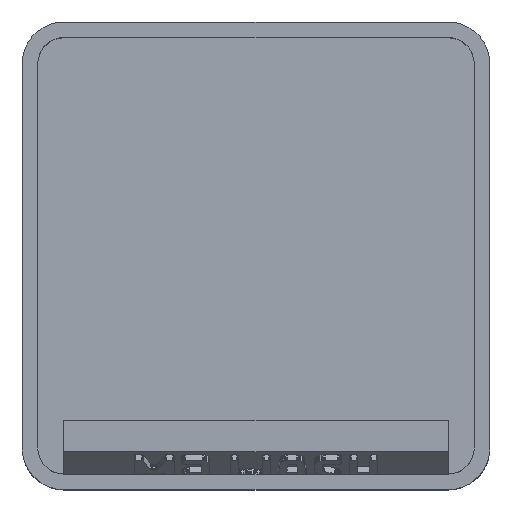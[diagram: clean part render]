
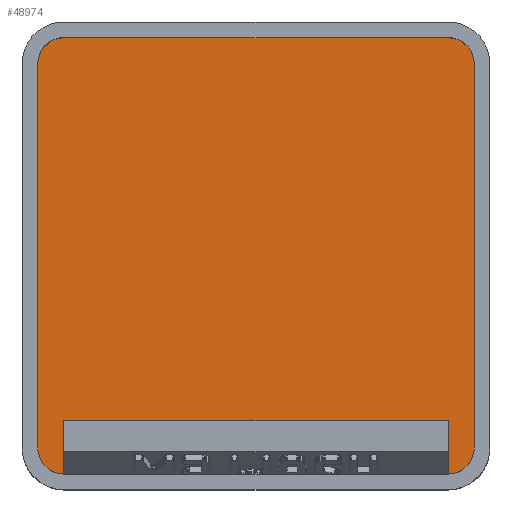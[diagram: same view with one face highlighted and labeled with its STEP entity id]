
A CAD part, top view. The second image highlights one B-rep face of the part: STEP entity #48974.
In plain terms, the highlighted planar face has unit normal (0, 0, 1).
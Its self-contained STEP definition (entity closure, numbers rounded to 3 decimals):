
#912 = PLANE('',#913);
#913 = AXIS2_PLACEMENT_3D('',#914,#915,#916);
#914 = CARTESIAN_POINT('',(-19.6,0.,21.));
#915 = DIRECTION('',(-1.,0.,0.));
#916 = DIRECTION('',(-0.,-1.,-0.));
#940 = CYLINDRICAL_SURFACE('',#941,2.35);
#941 = AXIS2_PLACEMENT_3D('',#942,#943,#944);
#942 = CARTESIAN_POINT('',(-17.25,17.25,5.95));
#943 = DIRECTION('',(-0.,-0.,1.));
#944 = DIRECTION('',(-1.,0.,0.));
#967 = PLANE('',#968);
#968 = AXIS2_PLACEMENT_3D('',#969,#970,#971);
#969 = CARTESIAN_POINT('',(0.,19.6,21.));
#970 = DIRECTION('',(0.,1.,0.));
#971 = DIRECTION('',(-1.,0.,0.));
#995 = CYLINDRICAL_SURFACE('',#996,2.35);
#996 = AXIS2_PLACEMENT_3D('',#997,#998,#999);
#997 = CARTESIAN_POINT('',(17.25,17.25,5.95));
#998 = DIRECTION('',(-0.,-0.,1.));
#999 = DIRECTION('',(-1.,0.,0.));
#1022 = PLANE('',#1023);
#1023 = AXIS2_PLACEMENT_3D('',#1024,#1025,#1026);
#1024 = CARTESIAN_POINT('',(19.6,0.,21.));
#1025 = DIRECTION('',(1.,0.,0.));
#1026 = DIRECTION('',(-0.,1.,0.));
#1050 = CYLINDRICAL_SURFACE('',#1051,2.35);
#1051 = AXIS2_PLACEMENT_3D('',#1052,#1053,#1054);
#1052 = CARTESIAN_POINT('',(17.25,-17.25,5.95));
#1053 = DIRECTION('',(-0.,-0.,1.));
#1054 = DIRECTION('',(-1.,0.,0.));
#1103 = CYLINDRICAL_SURFACE('',#1104,2.35);
#1104 = AXIS2_PLACEMENT_3D('',#1105,#1106,#1107);
#1105 = CARTESIAN_POINT('',(-17.25,-17.25,5.95));
#1106 = DIRECTION('',(-0.,-0.,1.));
#1107 = DIRECTION('',(-1.,0.,0.));
#17945 = EDGE_CURVE('',#17946,#17948,#17950,.T.);
#17946 = VERTEX_POINT('',#17947);
#17947 = CARTESIAN_POINT('',(-19.6,-17.25,5.95));
#17948 = VERTEX_POINT('',#17949);
#17949 = CARTESIAN_POINT('',(-19.6,17.25,5.95));
#17950 = SURFACE_CURVE('',#17951,(#17955,#17962),.PCURVE_S1.);
#17951 = LINE('',#17952,#17953);
#17952 = CARTESIAN_POINT('',(-19.6,0.,5.95));
#17953 = VECTOR('',#17954,1.);
#17954 = DIRECTION('',(0.,1.,0.));
#17955 = PCURVE('',#912,#17956);
#17956 = DEFINITIONAL_REPRESENTATION('',(#17957),#17961);
#17957 = LINE('',#17958,#17959);
#17958 = CARTESIAN_POINT('',(0.,-15.05));
#17959 = VECTOR('',#17960,1.);
#17960 = DIRECTION('',(-1.,0.));
#17961 = ( GEOMETRIC_REPRESENTATION_CONTEXT(2) 
PARAMETRIC_REPRESENTATION_CONTEXT() REPRESENTATION_CONTEXT('2D SPACE',''
  ) );
#17962 = PCURVE('',#17963,#17968);
#17963 = PLANE('',#17964);
#17964 = AXIS2_PLACEMENT_3D('',#17965,#17966,#17967);
#17965 = CARTESIAN_POINT('',(-17.25,-17.25,5.95));
#17966 = DIRECTION('',(0.,0.,-1.));
#17967 = DIRECTION('',(-1.,0.,0.));
#17968 = DEFINITIONAL_REPRESENTATION('',(#17969),#17973);
#17969 = LINE('',#17970,#17971);
#17970 = CARTESIAN_POINT('',(2.35,17.25));
#17971 = VECTOR('',#17972,1.);
#17972 = DIRECTION('',(0.,1.));
#17973 = ( GEOMETRIC_REPRESENTATION_CONTEXT(2) 
PARAMETRIC_REPRESENTATION_CONTEXT() REPRESENTATION_CONTEXT('2D SPACE',''
  ) );
#18020 = EDGE_CURVE('',#18021,#17946,#18023,.T.);
#18021 = VERTEX_POINT('',#18022);
#18022 = CARTESIAN_POINT('',(-17.25,-19.6,5.95));
#18023 = SURFACE_CURVE('',#18024,(#18029,#18036),.PCURVE_S1.);
#18024 = CIRCLE('',#18025,2.35);
#18025 = AXIS2_PLACEMENT_3D('',#18026,#18027,#18028);
#18026 = CARTESIAN_POINT('',(-17.25,-17.25,5.95));
#18027 = DIRECTION('',(0.,0.,-1.));
#18028 = DIRECTION('',(-1.,0.,0.));
#18029 = PCURVE('',#1103,#18030);
#18030 = DEFINITIONAL_REPRESENTATION('',(#18031),#18035);
#18031 = LINE('',#18032,#18033);
#18032 = CARTESIAN_POINT('',(6.283,0.));
#18033 = VECTOR('',#18034,1.);
#18034 = DIRECTION('',(-1.,0.));
#18035 = ( GEOMETRIC_REPRESENTATION_CONTEXT(2) 
PARAMETRIC_REPRESENTATION_CONTEXT() REPRESENTATION_CONTEXT('2D SPACE',''
  ) );
#18036 = PCURVE('',#17963,#18037);
#18037 = DEFINITIONAL_REPRESENTATION('',(#18038),#18042);
#18038 = CIRCLE('',#18039,2.35);
#18039 = AXIS2_PLACEMENT_2D('',#18040,#18041);
#18040 = CARTESIAN_POINT('',(0.,0.));
#18041 = DIRECTION('',(1.,0.));
#18042 = ( GEOMETRIC_REPRESENTATION_CONTEXT(2) 
PARAMETRIC_REPRESENTATION_CONTEXT() REPRESENTATION_CONTEXT('2D SPACE',''
  ) );
#18060 = PLANE('',#18061);
#18061 = AXIS2_PLACEMENT_3D('',#18062,#18063,#18064);
#18062 = CARTESIAN_POINT('',(0.,-19.6,21.));
#18063 = DIRECTION('',(0.,-1.,0.));
#18064 = DIRECTION('',(1.,0.,0.));
#18147 = EDGE_CURVE('',#18148,#18150,#18152,.T.);
#18148 = VERTEX_POINT('',#18149);
#18149 = CARTESIAN_POINT('',(19.6,-17.25,5.95));
#18150 = VERTEX_POINT('',#18151);
#18151 = CARTESIAN_POINT('',(17.25,-19.6,5.95));
#18152 = SURFACE_CURVE('',#18153,(#18158,#18165),.PCURVE_S1.);
#18153 = CIRCLE('',#18154,2.35);
#18154 = AXIS2_PLACEMENT_3D('',#18155,#18156,#18157);
#18155 = CARTESIAN_POINT('',(17.25,-17.25,5.95));
#18156 = DIRECTION('',(0.,0.,-1.));
#18157 = DIRECTION('',(-1.,0.,0.));
#18158 = PCURVE('',#1050,#18159);
#18159 = DEFINITIONAL_REPRESENTATION('',(#18160),#18164);
#18160 = LINE('',#18161,#18162);
#18161 = CARTESIAN_POINT('',(6.283,0.));
#18162 = VECTOR('',#18163,1.);
#18163 = DIRECTION('',(-1.,0.));
#18164 = ( GEOMETRIC_REPRESENTATION_CONTEXT(2) 
PARAMETRIC_REPRESENTATION_CONTEXT() REPRESENTATION_CONTEXT('2D SPACE',''
  ) );
#18165 = PCURVE('',#17963,#18166);
#18166 = DEFINITIONAL_REPRESENTATION('',(#18167),#18171);
#18167 = CIRCLE('',#18168,2.35);
#18168 = AXIS2_PLACEMENT_2D('',#18169,#18170);
#18169 = CARTESIAN_POINT('',(-34.5,0.));
#18170 = DIRECTION('',(1.,0.));
#18171 = ( GEOMETRIC_REPRESENTATION_CONTEXT(2) 
PARAMETRIC_REPRESENTATION_CONTEXT() REPRESENTATION_CONTEXT('2D SPACE',''
  ) );
#18245 = EDGE_CURVE('',#18148,#18246,#18248,.T.);
#18246 = VERTEX_POINT('',#18247);
#18247 = CARTESIAN_POINT('',(19.6,17.25,5.95));
#18248 = SURFACE_CURVE('',#18249,(#18253,#18260),.PCURVE_S1.);
#18249 = LINE('',#18250,#18251);
#18250 = CARTESIAN_POINT('',(19.6,0.,5.95));
#18251 = VECTOR('',#18252,1.);
#18252 = DIRECTION('',(0.,1.,0.));
#18253 = PCURVE('',#1022,#18254);
#18254 = DEFINITIONAL_REPRESENTATION('',(#18255),#18259);
#18255 = LINE('',#18256,#18257);
#18256 = CARTESIAN_POINT('',(0.,-15.05));
#18257 = VECTOR('',#18258,1.);
#18258 = DIRECTION('',(1.,0.));
#18259 = ( GEOMETRIC_REPRESENTATION_CONTEXT(2) 
PARAMETRIC_REPRESENTATION_CONTEXT() REPRESENTATION_CONTEXT('2D SPACE',''
  ) );
#18260 = PCURVE('',#17963,#18261);
#18261 = DEFINITIONAL_REPRESENTATION('',(#18262),#18266);
#18262 = LINE('',#18263,#18264);
#18263 = CARTESIAN_POINT('',(-36.85,17.25));
#18264 = VECTOR('',#18265,1.);
#18265 = DIRECTION('',(0.,1.));
#18266 = ( GEOMETRIC_REPRESENTATION_CONTEXT(2) 
PARAMETRIC_REPRESENTATION_CONTEXT() REPRESENTATION_CONTEXT('2D SPACE',''
  ) );
#18293 = EDGE_CURVE('',#18294,#18246,#18296,.T.);
#18294 = VERTEX_POINT('',#18295);
#18295 = CARTESIAN_POINT('',(17.25,19.6,5.95));
#18296 = SURFACE_CURVE('',#18297,(#18302,#18309),.PCURVE_S1.);
#18297 = CIRCLE('',#18298,2.35);
#18298 = AXIS2_PLACEMENT_3D('',#18299,#18300,#18301);
#18299 = CARTESIAN_POINT('',(17.25,17.25,5.95));
#18300 = DIRECTION('',(0.,0.,-1.));
#18301 = DIRECTION('',(-1.,0.,0.));
#18302 = PCURVE('',#995,#18303);
#18303 = DEFINITIONAL_REPRESENTATION('',(#18304),#18308);
#18304 = LINE('',#18305,#18306);
#18305 = CARTESIAN_POINT('',(6.283,0.));
#18306 = VECTOR('',#18307,1.);
#18307 = DIRECTION('',(-1.,0.));
#18308 = ( GEOMETRIC_REPRESENTATION_CONTEXT(2) 
PARAMETRIC_REPRESENTATION_CONTEXT() REPRESENTATION_CONTEXT('2D SPACE',''
  ) );
#18309 = PCURVE('',#17963,#18310);
#18310 = DEFINITIONAL_REPRESENTATION('',(#18311),#18315);
#18311 = CIRCLE('',#18312,2.35);
#18312 = AXIS2_PLACEMENT_2D('',#18313,#18314);
#18313 = CARTESIAN_POINT('',(-34.5,34.5));
#18314 = DIRECTION('',(1.,0.));
#18315 = ( GEOMETRIC_REPRESENTATION_CONTEXT(2) 
PARAMETRIC_REPRESENTATION_CONTEXT() REPRESENTATION_CONTEXT('2D SPACE',''
  ) );
#18343 = EDGE_CURVE('',#18344,#18294,#18346,.T.);
#18344 = VERTEX_POINT('',#18345);
#18345 = CARTESIAN_POINT('',(-17.25,19.6,5.95));
#18346 = SURFACE_CURVE('',#18347,(#18351,#18358),.PCURVE_S1.);
#18347 = LINE('',#18348,#18349);
#18348 = CARTESIAN_POINT('',(0.,19.6,5.95));
#18349 = VECTOR('',#18350,1.);
#18350 = DIRECTION('',(1.,0.,0.));
#18351 = PCURVE('',#967,#18352);
#18352 = DEFINITIONAL_REPRESENTATION('',(#18353),#18357);
#18353 = LINE('',#18354,#18355);
#18354 = CARTESIAN_POINT('',(0.,-15.05));
#18355 = VECTOR('',#18356,1.);
#18356 = DIRECTION('',(-1.,0.));
#18357 = ( GEOMETRIC_REPRESENTATION_CONTEXT(2) 
PARAMETRIC_REPRESENTATION_CONTEXT() REPRESENTATION_CONTEXT('2D SPACE',''
  ) );
#18358 = PCURVE('',#17963,#18359);
#18359 = DEFINITIONAL_REPRESENTATION('',(#18360),#18364);
#18360 = LINE('',#18361,#18362);
#18361 = CARTESIAN_POINT('',(-17.25,36.85));
#18362 = VECTOR('',#18363,1.);
#18363 = DIRECTION('',(-1.,0.));
#18364 = ( GEOMETRIC_REPRESENTATION_CONTEXT(2) 
PARAMETRIC_REPRESENTATION_CONTEXT() REPRESENTATION_CONTEXT('2D SPACE',''
  ) );
#18392 = EDGE_CURVE('',#17948,#18344,#18393,.T.);
#18393 = SURFACE_CURVE('',#18394,(#18399,#18406),.PCURVE_S1.);
#18394 = CIRCLE('',#18395,2.35);
#18395 = AXIS2_PLACEMENT_3D('',#18396,#18397,#18398);
#18396 = CARTESIAN_POINT('',(-17.25,17.25,5.95));
#18397 = DIRECTION('',(0.,0.,-1.));
#18398 = DIRECTION('',(-1.,0.,0.));
#18399 = PCURVE('',#940,#18400);
#18400 = DEFINITIONAL_REPRESENTATION('',(#18401),#18405);
#18401 = LINE('',#18402,#18403);
#18402 = CARTESIAN_POINT('',(6.283,0.));
#18403 = VECTOR('',#18404,1.);
#18404 = DIRECTION('',(-1.,0.));
#18405 = ( GEOMETRIC_REPRESENTATION_CONTEXT(2) 
PARAMETRIC_REPRESENTATION_CONTEXT() REPRESENTATION_CONTEXT('2D SPACE',''
  ) );
#18406 = PCURVE('',#17963,#18407);
#18407 = DEFINITIONAL_REPRESENTATION('',(#18408),#18412);
#18408 = CIRCLE('',#18409,2.35);
#18409 = AXIS2_PLACEMENT_2D('',#18410,#18411);
#18410 = CARTESIAN_POINT('',(0.,34.5));
#18411 = DIRECTION('',(1.,0.));
#18412 = ( GEOMETRIC_REPRESENTATION_CONTEXT(2) 
PARAMETRIC_REPRESENTATION_CONTEXT() REPRESENTATION_CONTEXT('2D SPACE',''
  ) );
#48974 = ADVANCED_FACE('',(#48975),#17963,.F.);
#48975 = FACE_BOUND('',#48976,.T.);
#48976 = EDGE_LOOP('',(#48977,#48978,#48979,#49000,#49001,#49002,#49003,
    #49004));
#48977 = ORIENTED_EDGE('',*,*,#17945,.F.);
#48978 = ORIENTED_EDGE('',*,*,#18020,.F.);
#48979 = ORIENTED_EDGE('',*,*,#48980,.T.);
#48980 = EDGE_CURVE('',#18021,#18150,#48981,.T.);
#48981 = SURFACE_CURVE('',#48982,(#48986,#48993),.PCURVE_S1.);
#48982 = LINE('',#48983,#48984);
#48983 = CARTESIAN_POINT('',(0.,-19.6,5.95));
#48984 = VECTOR('',#48985,1.);
#48985 = DIRECTION('',(1.,0.,0.));
#48986 = PCURVE('',#17963,#48987);
#48987 = DEFINITIONAL_REPRESENTATION('',(#48988),#48992);
#48988 = LINE('',#48989,#48990);
#48989 = CARTESIAN_POINT('',(-17.25,-2.35));
#48990 = VECTOR('',#48991,1.);
#48991 = DIRECTION('',(-1.,0.));
#48992 = ( GEOMETRIC_REPRESENTATION_CONTEXT(2) 
PARAMETRIC_REPRESENTATION_CONTEXT() REPRESENTATION_CONTEXT('2D SPACE',''
  ) );
#48993 = PCURVE('',#18060,#48994);
#48994 = DEFINITIONAL_REPRESENTATION('',(#48995),#48999);
#48995 = LINE('',#48996,#48997);
#48996 = CARTESIAN_POINT('',(0.,-15.05));
#48997 = VECTOR('',#48998,1.);
#48998 = DIRECTION('',(1.,0.));
#48999 = ( GEOMETRIC_REPRESENTATION_CONTEXT(2) 
PARAMETRIC_REPRESENTATION_CONTEXT() REPRESENTATION_CONTEXT('2D SPACE',''
  ) );
#49000 = ORIENTED_EDGE('',*,*,#18147,.F.);
#49001 = ORIENTED_EDGE('',*,*,#18245,.T.);
#49002 = ORIENTED_EDGE('',*,*,#18293,.F.);
#49003 = ORIENTED_EDGE('',*,*,#18343,.F.);
#49004 = ORIENTED_EDGE('',*,*,#18392,.F.);
